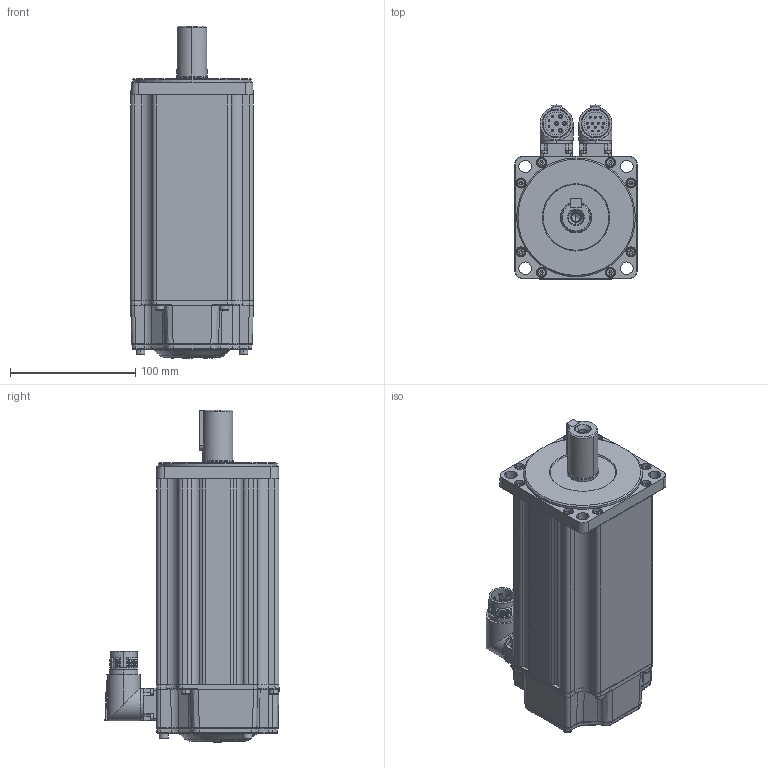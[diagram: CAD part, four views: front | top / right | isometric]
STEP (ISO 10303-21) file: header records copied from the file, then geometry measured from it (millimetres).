
FILE_DESCRIPTION (( 'STEP AP203' ), '1' );
FILE_NAME ('MC20-100-3L30-N202-1¡õPK-NNNN.STEP', '2025-05-04T13:26:49', ( '' ), ( '' ), 'SwSTEP 2.0', 'SolidWorks 2014', '' );
FILE_SCHEMA (( 'CONFIG_CONTROL_DESIGN' ));
Products named in the file (1): MC20-100-3L30-N202-1¡õPK-NNNN
Bounding box: 98.04 x 139.27 x 265.49 mm (x, y, z)
Volume: 2009322.7 mm3; surface area: 216980 mm2
Topology: 32 solids, 32 shells, 2072 faces, 4810 edges, 2855 vertices
Faces by surface type: plane 768, cylinder 544, cone 362, bspline 211, torus 182, sphere 5
Entity records: 64693 total; most frequent: CARTESIAN_POINT 18778, DIRECTION 9678, ORIENTED_EDGE 9432, EDGE_CURVE 4716, AXIS2_PLACEMENT_3D 3775, VERTEX_POINT 2855, EDGE_LOOP 2291, LINE 2128
